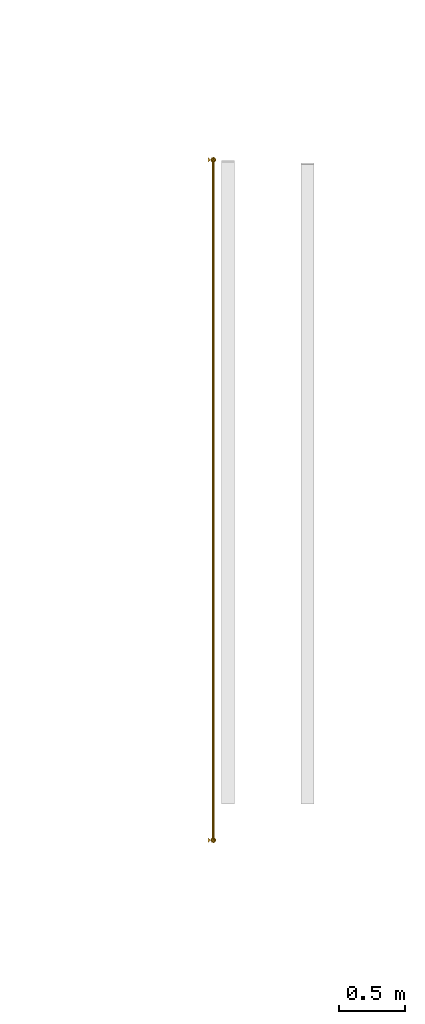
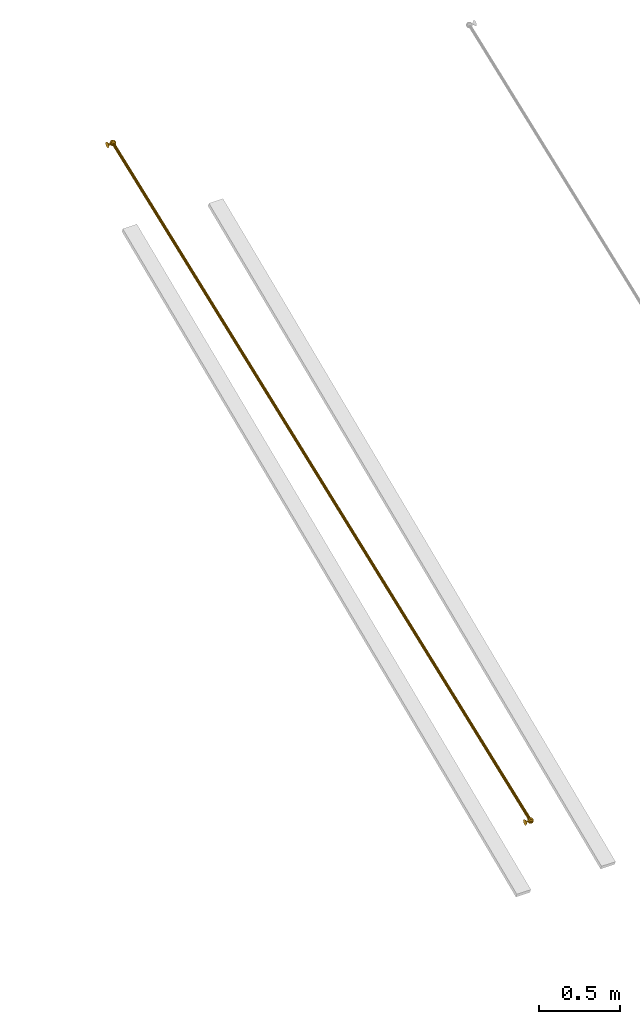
# One storey, part 112 of 194: 1 railing.
"""IFC2X3 building model written with IfcOpenShell, lengths in millimetres."""

from ifc_helpers import new_model, entity, si_unit, converted_unit, derived_unit, money_unit, direction, frame, origin_with_axes, place, context, subcontext, project, spatial, faceted_brep, type_object, element, save


model = new_model("IFC2X3")

# Units and contexts
model_context = context("Model", 3, precision=1e-05, world=origin_with_axes(), true_north=direction((0.0, 1.0)))
body_context = subcontext(model_context, "Body", "Model", "MODEL_VIEW")
ifc_project = project(units=[si_unit("LENGTHUNIT", "METRE", prefix="MILLI"), si_unit("AREAUNIT", "SQUARE_METRE"), si_unit("VOLUMEUNIT", "CUBIC_METRE"), converted_unit("PLANEANGLEUNIT", "DEGREE", entity("IfcPlaneAngleMeasure", 0.0174532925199), si_unit("PLANEANGLEUNIT", "RADIAN"), dimensions=[0, 0, 0, 0, 0, 0, 0]), si_unit("SOLIDANGLEUNIT", "STERADIAN"), money_unit("EUR"), converted_unit("TIMEUNIT", "Year", entity("IfcTimeMeasure", 31556926.0), si_unit("TIMEUNIT", "SECOND"), dimensions=[0, 0, 1, 0, 0, 0, 0]), si_unit("MASSUNIT", "GRAM", prefix="KILO"), si_unit("THERMODYNAMICTEMPERATUREUNIT", "DEGREE_CELSIUS"), si_unit("LUMINOUSINTENSITYUNIT", "LUMEN"), si_unit("ENERGYUNIT", "JOULE", prefix="MEGA"), derived_unit("THERMALCONDUCTANCEUNIT", [(si_unit("POWERUNIT", "WATT"), 1), (si_unit("LENGTHUNIT", "METRE"), -1), (si_unit("THERMODYNAMICTEMPERATUREUNIT", "KELVIN"), -1)]), derived_unit("SPECIFICHEATCAPACITYUNIT", [(si_unit("ENERGYUNIT", "JOULE"), 1), (si_unit("MASSUNIT", "GRAM", prefix="KILO"), -1), (si_unit("THERMODYNAMICTEMPERATUREUNIT", "KELVIN"), -1)]), derived_unit("MASSDENSITYUNIT", [(si_unit("MASSUNIT", "GRAM", prefix="KILO"), 1), (si_unit("VOLUMEUNIT", "CUBIC_METRE"), -1)])], contexts=[model_context])

# Site, building, storey
site_placement = place(None, origin_with_axes())
site = spatial("IfcSite", under=ifc_project, at=site_placement, Name="Site", CompositionType="ELEMENT")
building_placement = place(site_placement, origin_with_axes())
building = spatial("IfcBuilding", under=site, at=building_placement, Name="Building", CompositionType="ELEMENT")
storey_placement = place(building_placement, frame((0.0, 0.0, 3000.0), z_axis=(0.0, 0.0, 1.0), x_axis=(1.0, 0.0, 0.0)))
storey = spatial("IfcBuildingStorey", under=building, at=storey_placement, Name="2 KORRUS", CompositionType="ELEMENT", Elevation=3000.0)

# Railing
railing_type = type_object("IfcRailingType", Name="TR 7 käepiire", PredefinedType="NOTDEFINED")
railing_placement = place(storey_placement, frame((97308.7028065, 52313.9889357, -92.5), z_axis=(0.0, 0.0, 1.0), x_axis=(0.0, 1.0, 0.0)))
element("IfcRailing", 1, at=railing_placement, inside=storey, type_object=railing_type, Name="FU - 002", PredefinedType="NOTDEFINED", context=body_context, shape_type="Brep", body=[
    faceted_brep([(2547.36983293, -40.0, 14.5074874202), (2547.91373767, -42.9289321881, 14.716272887), (2553.96956546, -40.0, 18.6716085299), (2542.86601529, -40.0, 8.13473286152), (2543.8710202, -45.4119610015, 8.52051810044), (2549.46264731, -45.4119610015, 15.3108435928), (2547.91373767, -37.0710678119, 14.716272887), (2541.14377795, -40.0, 0.523538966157), (2542.45688014, -47.0710678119, 1.02759167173), (2546.73303204, -50.0, 9.61914151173), (2543.8710202, -34.5880389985, 8.52051810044), (2551.78075441, -47.0710678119, 16.2006815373), (2549.46264731, -34.5880389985, 15.3108435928), (2542.46531592, -40.0, -7.16735899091), (2543.88660749, -47.6536686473, -6.62177627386), (2546.19627881, -53.0656296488, 2.46301233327), (2542.45688014, -32.9289321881, 1.02759167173), (2551.01633544, -53.0656296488, 11.2633476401), (2546.73303204, -30.0, 9.61914151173), (2554.51514817, -47.6536686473, 17.2503169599), (2551.78075441, -32.9289321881, 16.2006815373), (2546.62943703, -40.0, -13.7670915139), (2547.94253922, -47.0710678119, -13.2630388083), (2547.93410344, -54.1421356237, -5.06808814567), (2543.88660749, -32.3463313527, -6.62177627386), (2551.7926844, -57.0710678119, 4.61127116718), (2546.19627881, -26.9343703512, 2.46301233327), (2556.0688363, -54.1421356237, 13.2028210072), (2551.01633544, -26.9343703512, 11.2633476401), (2557.24954194, -47.0710678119, 18.2999523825), (2554.51514817, -32.3463313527, 17.2503169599), (2553.00219159, -40.0, -18.2709091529), (2554.00719649, -45.4119610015, -17.8851239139), (2551.68193789, -53.0656296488, -11.8276181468), (2547.94253922, -32.9289321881, -13.2630388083), (2553.99160921, -58.4775906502, -2.74282953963), (2547.93410344, -25.8578643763, -5.06808814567), (2558.39409491, -58.4775906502, 7.14531524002), (2551.7926844, -22.9289321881, 4.61127116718), (2561.12133716, -53.0656296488, 15.1422943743), (2556.0688363, -25.8578643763, 13.2028210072), (2559.56764903, -45.4119610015, 19.189790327), (2557.24954194, -32.9289321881, 18.2999523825), (2560.61338548, -40.0, -19.9931464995), (2561.15729022, -42.9289321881, -19.7843610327), (2556.86920833, -50.0, -16.7865005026), (2554.00719649, -34.5880389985, -17.8851239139), (2557.27834348, -57.0710678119, -9.67935931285), (2551.68193789, -26.9343703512, -11.8276181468), (2561.13692445, -60.0, 0.0), (2553.99160921, -21.5224093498, -2.74282953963), (2564.99550541, -57.0710678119, 9.67935931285), (2558.39409491, -21.5224093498, 7.14531524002), (2565.40464057, -50.0, 16.7865005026), (2561.12133716, -26.9343703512, 15.1422943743), (2561.11655868, -42.9289321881, 19.7843610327), (2559.56764903, -34.5880389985, 19.189790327), (2568.30428344, -40.0, -18.6716085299), (2562.70619986, -45.4119610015, -19.189790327), (2561.15729022, -37.0710678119, -19.7843610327), (2561.15251173, -53.0656296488, -15.1422943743), (2556.86920833, -30.0, -16.7865005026), (2563.87975399, -58.4775906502, -7.14531524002), (2557.27834348, -22.9289321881, -9.67935931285), (2568.28223969, -58.4775906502, 2.74282953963), (2561.13692445, -20.0, 0.0), (2570.59191101, -53.0656296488, 11.8276181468), (2564.99550541, -22.9289321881, 9.67935931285), (2568.2666524, -45.4119610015, 17.8851239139), (2565.40464057, -30.0, 16.7865005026), (2561.66046341, -40.0, 19.9931464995), (2561.11655868, -37.0710678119, 19.7843610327), (2565.02430696, -47.0710678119, -18.2999523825), (2562.70619986, -34.5880389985, -19.189790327), (2566.20501259, -54.1421356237, -13.2028210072), (2561.15251173, -26.9343703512, -15.1422943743), (2570.48116449, -57.0710678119, -4.61127116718), (2563.87975399, -21.5224093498, -7.14531524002), (2574.33974545, -54.1421356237, 5.06808814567), (2568.28223969, -21.5224093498, 2.74282953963), (2574.33130968, -47.0710678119, 13.2630388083), (2570.59191101, -26.9343703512, 11.8276181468), (2569.27165731, -40.0, 18.2709091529), (2568.2666524, -34.5880389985, 17.8851239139), (2567.75870072, -47.6536686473, -17.2503169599), (2565.02430696, -32.9289321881, -18.2999523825), (2571.25751345, -53.0656296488, -11.2633476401), (2566.20501259, -25.8578643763, -13.2028210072), (2576.07757009, -53.0656296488, -2.46301233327), (2570.48116449, -22.9289321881, -4.61127116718), (2578.38724141, -47.6536686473, 6.62177627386), (2574.33974545, -25.8578643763, 5.06808814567), (2575.64441187, -40.0, 13.7670915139), (2574.33130968, -32.9289321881, 13.2630388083), (2570.49309448, -47.0710678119, -16.2006815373), (2567.75870072, -32.3463313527, -17.2503169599), (2575.54081686, -50.0, -9.61914151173), (2571.25751345, -26.9343703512, -11.2633476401), (2579.81696876, -47.0710678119, -1.02759167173), (2576.07757009, -26.9343703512, -2.46301233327), (2579.80853298, -40.0, 7.16735899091), (2578.38724141, -32.3463313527, 6.62177627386), (2572.81120158, -45.4119610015, -15.3108435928), (2570.49309448, -32.9289321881, -16.2006815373), (2578.40282869, -45.4119610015, -8.52051810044), (2575.54081686, -30.0, -9.61914151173), (2581.13007095, -40.0, -0.523538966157), (2579.81696876, -32.9289321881, -1.02759167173), (2574.36011122, -42.9289321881, -14.716272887), (2572.81120158, -34.5880389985, -15.3108435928), (2579.4078336, -40.0, -8.13473286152), (2578.40282869, -34.5880389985, -8.52051810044), (2574.90401596, -40.0, -14.5074874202), (2574.36011122, -37.0710678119, -14.716272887)], [[[0, 1, 2]], [[3, 4, 1, 0]], [[1, 5, 2]], [[6, 0, 2]], [[7, 8, 4, 3]], [[4, 9, 5, 1]], [[10, 3, 0, 6]], [[5, 11, 2]], [[12, 6, 2]], [[13, 14, 8, 7]], [[8, 15, 9, 4]], [[16, 7, 3, 10]], [[9, 17, 11, 5]], [[18, 10, 6, 12]], [[11, 19, 2]], [[20, 12, 2]], [[21, 22, 14, 13]], [[14, 23, 15, 8]], [[24, 13, 7, 16]], [[15, 25, 17, 9]], [[26, 16, 10, 18]], [[17, 27, 19, 11]], [[28, 18, 12, 20]], [[19, 29, 2]], [[30, 20, 2]], [[31, 32, 22, 21]], [[22, 33, 23, 14]], [[34, 21, 13, 24]], [[23, 35, 25, 15]], [[36, 24, 16, 26]], [[25, 37, 27, 17]], [[38, 26, 18, 28]], [[27, 39, 29, 19]], [[40, 28, 20, 30]], [[29, 41, 2]], [[42, 30, 2]], [[43, 44, 32, 31]], [[32, 45, 33, 22]], [[46, 31, 21, 34]], [[33, 47, 35, 23]], [[48, 34, 24, 36]], [[35, 49, 37, 25]], [[50, 36, 26, 38]], [[37, 51, 39, 27]], [[52, 38, 28, 40]], [[39, 53, 41, 29]], [[54, 40, 30, 42]], [[41, 55, 2]], [[56, 42, 2]], [[57, 44, 43]], [[44, 58, 45, 32]], [[59, 43, 31, 46]], [[45, 60, 47, 33]], [[61, 46, 34, 48]], [[47, 62, 49, 35]], [[63, 48, 36, 50]], [[49, 64, 51, 37]], [[65, 50, 38, 52]], [[51, 66, 53, 39]], [[67, 52, 40, 54]], [[53, 68, 55, 41]], [[69, 54, 42, 56]], [[55, 70, 2]], [[71, 56, 2]], [[57, 58, 44]], [[57, 43, 59]], [[58, 72, 60, 45]], [[73, 59, 46, 61]], [[60, 74, 62, 47]], [[75, 61, 48, 63]], [[62, 76, 64, 49]], [[77, 63, 50, 65]], [[64, 78, 66, 51]], [[79, 65, 52, 67]], [[66, 80, 68, 53]], [[81, 67, 54, 69]], [[68, 82, 70, 55]], [[83, 69, 56, 71]], [[70, 71, 2]], [[57, 72, 58]], [[57, 59, 73]], [[72, 84, 74, 60]], [[85, 73, 61, 75]], [[74, 86, 76, 62]], [[87, 75, 63, 77]], [[76, 88, 78, 64]], [[89, 77, 65, 79]], [[78, 90, 80, 66]], [[91, 79, 67, 81]], [[80, 92, 82, 68]], [[93, 81, 69, 83]], [[82, 83, 71, 70]], [[57, 84, 72]], [[57, 73, 85]], [[84, 94, 86, 74]], [[95, 85, 75, 87]], [[86, 96, 88, 76]], [[97, 87, 77, 89]], [[88, 98, 90, 78]], [[99, 89, 79, 91]], [[90, 100, 92, 80]], [[101, 91, 81, 93]], [[92, 93, 83, 82]], [[57, 94, 84]], [[57, 85, 95]], [[94, 102, 96, 86]], [[103, 95, 87, 97]], [[96, 104, 98, 88]], [[105, 97, 89, 99]], [[98, 106, 100, 90]], [[107, 99, 91, 101]], [[100, 101, 93, 92]], [[57, 102, 94]], [[57, 95, 103]], [[102, 108, 104, 96]], [[109, 103, 97, 105]], [[104, 110, 106, 98]], [[111, 105, 99, 107]], [[106, 107, 101, 100]], [[57, 108, 102]], [[57, 103, 109]], [[108, 112, 110, 104]], [[113, 109, 105, 111]], [[110, 111, 107, 106]], [[57, 112, 108]], [[57, 109, 113]], [[112, 113, 111, 110]], [[57, 113, 112]]]),
    faceted_brep([(2575.64441187, 0.0, 13.7670915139), (2561.13692445, -20.487804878, 0.0), (2579.80853298, 0.0, 7.16735899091), (2569.27165731, 0.0, 18.2709091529), (2581.13007095, 0.0, -0.523538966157), (2579.4078336, 0.0, -8.13473286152), (2574.90401596, 0.0, -14.5074874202), (2568.30428344, 0.0, -18.6716085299), (2560.61338548, 0.0, -19.9931464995), (2553.00219159, 0.0, -18.2709091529), (2546.62943703, 0.0, -13.7670915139), (2542.46531592, 0.0, -7.16735899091), (2541.14377795, 0.0, 0.523538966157), (2542.86601529, 0.0, 8.13473286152), (2547.36983293, 0.0, 14.5074874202), (2553.96956546, 0.0, 18.6716085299), (2561.66046341, 0.0, 19.9931464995)], [[[0, 1, 2]], [[3, 1, 0]], [[2, 1, 4]], [[2, 4, 5, 6, 7, 8, 9, 10, 11, 12, 13, 14, 15, 16, 3, 0]], [[16, 1, 3]], [[4, 1, 5]], [[5, 1, 6]], [[6, 1, 7]], [[7, 1, 8]], [[8, 1, 9]], [[9, 1, 10]], [[10, 1, 11]], [[11, 1, 12]], [[12, 1, 13]], [[13, 1, 14]], [[14, 1, 15]], [[15, 1, 16]]]),
    faceted_brep([(2564.44781258, -43.8268343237, -8.62515847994), (2564.72060394, -40.0, -9.33580426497), (2564.44781258, -36.1731656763, -8.62515847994), (2563.67096852, -32.9289321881, -6.60141050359), (2562.50833922, -30.7612046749, -3.57265762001), (2561.13692445, -30.0, 0.0), (2559.76550968, -30.7612046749, 3.57265762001), (2558.60288037, -32.9289321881, 6.60141050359), (2557.82603631, -36.1731656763, 8.62515847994), (2557.55324495, -40.0, 9.33580426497), (2557.82603631, -43.8268343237, 8.62515847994), (2558.60288037, -47.0710678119, 6.60141050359), (2559.76550968, -49.2387953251, 3.57265762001), (2561.13692445, -50.0, 0.0), (2562.50833922, -49.2387953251, -3.57265762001), (2563.67096852, -47.0710678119, -6.60141050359), (-2560.48281925, -43.8268343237, -1975.90171009), (-2560.21002789, -40.0, -1976.61235588), (-2560.48281925, -36.1731656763, -1975.90171009), (-2561.25966331, -32.9289321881, -1973.87796212), (-2562.42229262, -30.7612046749, -1970.84920923), (-2563.79370739, -30.0, -1967.27655161), (-2565.16512216, -30.7612046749, -1963.70389399), (-2566.32775146, -32.9289321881, -1960.67514111), (-2567.10459552, -36.1731656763, -1958.65139313), (-2567.37738688, -40.0, -1957.94074735), (-2567.10459552, -43.8268343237, -1958.65139313), (-2566.32775146, -47.0710678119, -1960.67514111), (-2565.16512216, -49.2387953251, -1963.70389399), (-2563.79370739, -50.0, -1967.27655161), (-2562.42229262, -49.2387953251, -1970.84920923), (-2561.25966331, -47.0710678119, -1973.87796212)], [[[0, 1, 2, 3, 4, 5, 6, 7, 8, 9, 10, 11, 12, 13, 14, 15]], [[0, 16, 17, 1]], [[1, 17, 18, 2]], [[2, 18, 19, 3]], [[3, 19, 20, 4]], [[4, 20, 21, 5]], [[5, 21, 22, 6]], [[6, 22, 23, 7]], [[7, 23, 24, 8]], [[8, 24, 25, 9]], [[9, 25, 26, 10]], [[10, 26, 27, 11]], [[11, 27, 28, 12]], [[12, 28, 29, 13]], [[13, 29, 30, 14]], [[14, 30, 31, 15]], [[15, 31, 16, 0]], [[16, 31, 30, 29, 28, 27, 26, 25, 24, 23, 22, 21, 20, 19, 18, 17]]]),
    faceted_brep([(-2577.5607989, -40.0, -1952.76906419), (-2577.01689417, -42.9289321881, -1952.56027873), (-2570.96106638, -40.0, -1948.60494308), (-2582.06461654, -40.0, -1959.14181875), (-2581.05961163, -45.4119610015, -1958.75603351), (-2575.46798452, -45.4119610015, -1951.96570802), (-2577.01689417, -37.0710678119, -1952.56027873), (-2583.78685389, -40.0, -1966.75301265), (-2582.4737517, -47.0710678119, -1966.24895994), (-2578.1975998, -50.0, -1957.6574101), (-2581.05961163, -34.5880389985, -1958.75603351), (-2573.14987742, -47.0710678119, -1951.07587008), (-2575.46798452, -34.5880389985, -1951.96570802), (-2582.46531592, -40.0, -1974.4439106), (-2581.04402435, -47.6536686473, -1973.89832789), (-2578.73435303, -53.0656296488, -1964.81353928), (-2582.4737517, -32.9289321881, -1966.24895994), (-2573.91429639, -53.0656296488, -1956.01320397), (-2578.1975998, -30.0, -1957.6574101), (-2570.41548366, -47.6536686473, -1950.02623465), (-2573.14987742, -32.9289321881, -1951.07587008), (-2578.30119481, -40.0, -1981.04364313), (-2576.98809262, -47.0710678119, -1980.53959042), (-2576.99652839, -54.1421356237, -1972.34463976), (-2581.04402435, -32.3463313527, -1973.89832789), (-2573.13794743, -57.0710678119, -1962.66528045), (-2578.73435303, -26.9343703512, -1964.81353928), (-2568.86179553, -54.1421356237, -1954.07373061), (-2573.91429639, -26.9343703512, -1956.01320397), (-2567.6810899, -47.0710678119, -1948.97659923), (-2570.41548366, -32.3463313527, -1950.02623465), (-2571.92844025, -40.0, -1985.54746077), (-2570.92343534, -45.4119610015, -1985.16167553), (-2573.24869395, -53.0656296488, -1979.10416976), (-2576.98809262, -32.9289321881, -1980.53959042), (-2570.93902263, -58.4775906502, -1970.01938115), (-2576.99652839, -25.8578643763, -1972.34463976), (-2566.53653693, -58.4775906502, -1960.13123637), (-2573.13794743, -22.9289321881, -1962.66528045), (-2563.80929467, -53.0656296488, -1952.13425724), (-2568.86179553, -25.8578643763, -1954.07373061), (-2565.3629828, -45.4119610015, -1948.08676129), (-2567.6810899, -32.9289321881, -1948.97659923), (-2564.31724635, -40.0, -1987.26969811), (-2563.77334162, -42.9289321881, -1987.06091265), (-2568.06142351, -50.0, -1984.06305212), (-2570.92343534, -34.5880389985, -1985.16167553), (-2567.65228835, -57.0710678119, -1976.95591093), (-2573.24869395, -26.9343703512, -1979.10416976), (-2563.79370739, -60.0, -1967.27655161), (-2570.93902263, -21.5224093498, -1970.01938115), (-2559.93512642, -57.0710678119, -1957.5971923), (-2566.53653693, -21.5224093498, -1960.13123637), (-2559.52599127, -50.0, -1950.49005111), (-2563.80929467, -26.9343703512, -1952.13425724), (-2563.81407316, -42.9289321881, -1947.49219058), (-2565.3629828, -34.5880389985, -1948.08676129), (-2556.6263484, -40.0, -1985.94816014), (-2562.22443197, -45.4119610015, -1986.46634194), (-2563.77334162, -37.0710678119, -1987.06091265), (-2563.7781201, -53.0656296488, -1982.41884599), (-2568.06142351, -30.0, -1984.06305212), (-2561.05087785, -58.4775906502, -1974.42186685), (-2567.65228835, -22.9289321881, -1976.95591093), (-2556.64839215, -58.4775906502, -1964.53372207), (-2563.79370739, -20.0, -1967.27655161), (-2554.33872083, -53.0656296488, -1955.44893347), (-2559.93512642, -22.9289321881, -1957.5971923), (-2556.66397943, -45.4119610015, -1949.3914277), (-2559.52599127, -30.0, -1950.49005111), (-2563.27016842, -40.0, -1947.28340511), (-2563.81407316, -37.0710678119, -1947.49219058), (-2559.90632488, -47.0710678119, -1985.576504), (-2562.22443197, -34.5880389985, -1986.46634194), (-2558.72561924, -54.1421356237, -1980.47937262), (-2563.7781201, -26.9343703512, -1982.41884599), (-2554.44946734, -57.0710678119, -1971.88782278), (-2561.05087785, -21.5224093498, -1974.42186685), (-2550.59088638, -54.1421356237, -1962.20846347), (-2556.64839215, -21.5224093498, -1964.53372207), (-2550.59932216, -47.0710678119, -1954.0135128), (-2554.33872083, -26.9343703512, -1955.44893347), (-2555.65897453, -40.0, -1949.00564246), (-2556.66397943, -34.5880389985, -1949.3914277), (-2557.17193111, -47.6536686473, -1984.52686857), (-2559.90632488, -32.9289321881, -1985.576504), (-2553.67311838, -53.0656296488, -1978.53989925), (-2558.72561924, -25.8578643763, -1980.47937262), (-2548.85306175, -53.0656296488, -1969.73956395), (-2554.44946734, -22.9289321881, -1971.88782278), (-2546.54339043, -47.6536686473, -1960.65477534), (-2550.59088638, -25.8578643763, -1962.20846347), (-2549.28621997, -40.0, -1953.5094601), (-2550.59932216, -32.9289321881, -1954.0135128), (-2554.43753735, -47.0710678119, -1983.47723315), (-2557.17193111, -32.3463313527, -1984.52686857), (-2549.38981498, -50.0, -1976.89569312), (-2553.67311838, -26.9343703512, -1978.53989925), (-2545.11366308, -47.0710678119, -1968.30414328), (-2548.85306175, -26.9343703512, -1969.73956395), (-2545.12209886, -40.0, -1960.10919262), (-2546.54339043, -32.3463313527, -1960.65477534), (-2552.11943025, -45.4119610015, -1982.58739521), (-2554.43753735, -32.9289321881, -1983.47723315), (-2546.52780314, -45.4119610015, -1975.79706971), (-2549.38981498, -30.0, -1976.89569312), (-2543.80056089, -40.0, -1967.80009058), (-2545.11366308, -32.9289321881, -1968.30414328), (-2550.57052061, -42.9289321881, -1981.9928245), (-2552.11943025, -34.5880389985, -1982.58739521), (-2545.52279823, -40.0, -1975.41128447), (-2546.52780314, -34.5880389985, -1975.79706971), (-2550.02661587, -40.0, -1981.78403903), (-2550.57052061, -37.0710678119, -1981.9928245)], [[[0, 1, 2]], [[3, 4, 1, 0]], [[1, 5, 2]], [[6, 0, 2]], [[7, 8, 4, 3]], [[4, 9, 5, 1]], [[10, 3, 0, 6]], [[5, 11, 2]], [[12, 6, 2]], [[13, 14, 8, 7]], [[8, 15, 9, 4]], [[16, 7, 3, 10]], [[9, 17, 11, 5]], [[18, 10, 6, 12]], [[11, 19, 2]], [[20, 12, 2]], [[21, 22, 14, 13]], [[14, 23, 15, 8]], [[24, 13, 7, 16]], [[15, 25, 17, 9]], [[26, 16, 10, 18]], [[17, 27, 19, 11]], [[28, 18, 12, 20]], [[19, 29, 2]], [[30, 20, 2]], [[31, 32, 22, 21]], [[22, 33, 23, 14]], [[34, 21, 13, 24]], [[23, 35, 25, 15]], [[36, 24, 16, 26]], [[25, 37, 27, 17]], [[38, 26, 18, 28]], [[27, 39, 29, 19]], [[40, 28, 20, 30]], [[29, 41, 2]], [[42, 30, 2]], [[43, 44, 32, 31]], [[32, 45, 33, 22]], [[46, 31, 21, 34]], [[33, 47, 35, 23]], [[48, 34, 24, 36]], [[35, 49, 37, 25]], [[50, 36, 26, 38]], [[37, 51, 39, 27]], [[52, 38, 28, 40]], [[39, 53, 41, 29]], [[54, 40, 30, 42]], [[41, 55, 2]], [[56, 42, 2]], [[57, 44, 43]], [[44, 58, 45, 32]], [[59, 43, 31, 46]], [[45, 60, 47, 33]], [[61, 46, 34, 48]], [[47, 62, 49, 35]], [[63, 48, 36, 50]], [[49, 64, 51, 37]], [[65, 50, 38, 52]], [[51, 66, 53, 39]], [[67, 52, 40, 54]], [[53, 68, 55, 41]], [[69, 54, 42, 56]], [[55, 70, 2]], [[71, 56, 2]], [[57, 58, 44]], [[57, 43, 59]], [[58, 72, 60, 45]], [[73, 59, 46, 61]], [[60, 74, 62, 47]], [[75, 61, 48, 63]], [[62, 76, 64, 49]], [[77, 63, 50, 65]], [[64, 78, 66, 51]], [[79, 65, 52, 67]], [[66, 80, 68, 53]], [[81, 67, 54, 69]], [[68, 82, 70, 55]], [[83, 69, 56, 71]], [[70, 71, 2]], [[57, 72, 58]], [[57, 59, 73]], [[72, 84, 74, 60]], [[85, 73, 61, 75]], [[74, 86, 76, 62]], [[87, 75, 63, 77]], [[76, 88, 78, 64]], [[89, 77, 65, 79]], [[78, 90, 80, 66]], [[91, 79, 67, 81]], [[80, 92, 82, 68]], [[93, 81, 69, 83]], [[82, 83, 71, 70]], [[57, 84, 72]], [[57, 73, 85]], [[84, 94, 86, 74]], [[95, 85, 75, 87]], [[86, 96, 88, 76]], [[97, 87, 77, 89]], [[88, 98, 90, 78]], [[99, 89, 79, 91]], [[90, 100, 92, 80]], [[101, 91, 81, 93]], [[92, 93, 83, 82]], [[57, 94, 84]], [[57, 85, 95]], [[94, 102, 96, 86]], [[103, 95, 87, 97]], [[96, 104, 98, 88]], [[105, 97, 89, 99]], [[98, 106, 100, 90]], [[107, 99, 91, 101]], [[100, 101, 93, 92]], [[57, 102, 94]], [[57, 95, 103]], [[102, 108, 104, 96]], [[109, 103, 97, 105]], [[104, 110, 106, 98]], [[111, 105, 99, 107]], [[106, 107, 101, 100]], [[57, 108, 102]], [[57, 103, 109]], [[108, 112, 110, 104]], [[113, 109, 105, 111]], [[110, 111, 107, 106]], [[57, 112, 108]], [[57, 109, 113]], [[112, 113, 111, 110]], [[57, 113, 112]]]),
    faceted_brep([(-2549.28621997, 0.0, -1953.5094601), (-2563.79370739, -20.487804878, -1967.27655161), (-2545.12209886, 0.0, -1960.10919262), (-2555.65897453, 0.0, -1949.00564246), (-2543.80056089, 0.0, -1967.80009058), (-2545.52279823, 0.0, -1975.41128447), (-2550.02661587, 0.0, -1981.78403903), (-2556.6263484, 0.0, -1985.94816014), (-2564.31724635, 0.0, -1987.26969811), (-2571.92844025, 0.0, -1985.54746077), (-2578.30119481, 0.0, -1981.04364313), (-2582.46531592, 0.0, -1974.4439106), (-2583.78685389, 0.0, -1966.75301265), (-2582.06461654, 0.0, -1959.14181875), (-2577.5607989, 0.0, -1952.76906419), (-2570.96106638, 0.0, -1948.60494308), (-2563.27016842, 0.0, -1947.28340511)], [[[0, 1, 2]], [[3, 1, 0]], [[2, 1, 4]], [[2, 4, 5, 6, 7, 8, 9, 10, 11, 12, 13, 14, 15, 16, 3, 0]], [[16, 1, 3]], [[4, 1, 5]], [[5, 1, 6]], [[6, 1, 7]], [[7, 1, 8]], [[8, 1, 9]], [[9, 1, 10]], [[10, 1, 11]], [[11, 1, 12]], [[12, 1, 13]], [[13, 1, 14]], [[14, 1, 15]], [[15, 1, 16]]]),
])

save(model, "model.ifc")
